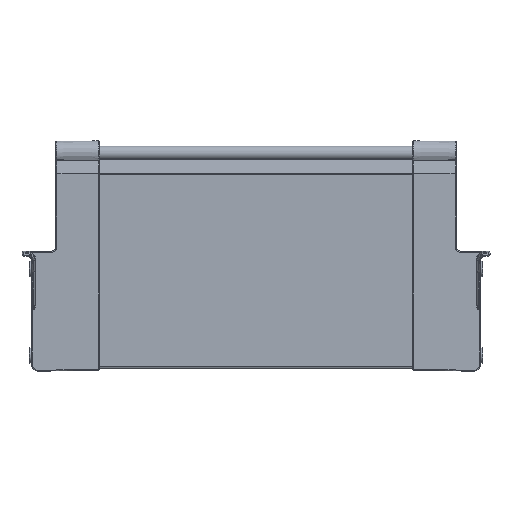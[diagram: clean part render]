
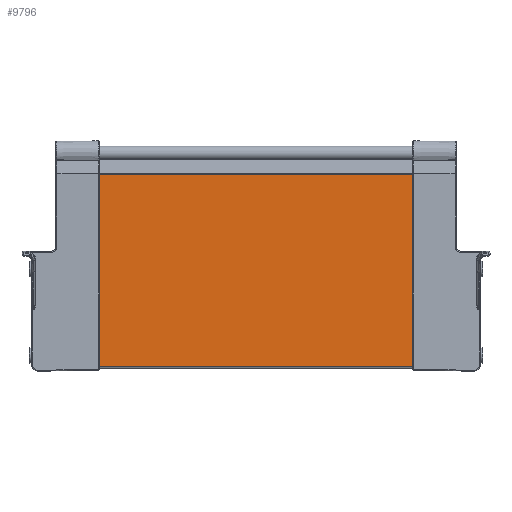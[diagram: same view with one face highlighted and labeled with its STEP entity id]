
A CAD part, top view. The second image highlights one B-rep face of the part: STEP entity #9796.
In plain terms, the highlighted planar face has unit normal (0, 0, 1).
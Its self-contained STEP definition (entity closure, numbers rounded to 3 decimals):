
#2558 = CARTESIAN_POINT ( 'NONE',  ( -38.8, 45.248, 4.05 ) ) ;
#2560 = DIRECTION ( 'NONE',  ( 0., -1., 0. ) ) ;
#2561 = VECTOR ( 'NONE', #2560, 1000. ) ;
#2562 = CARTESIAN_POINT ( 'NONE',  ( -38.8, 45.248, 4.05 ) ) ;
#2563 = LINE ( 'NONE', #2562, #2561 ) ;
#2564 = CARTESIAN_POINT ( 'NONE',  ( -38.8, -64.725, 4.05 ) ) ;
#5880 = DIRECTION ( 'NONE',  ( -1., 0., 0. ) ) ;
#5881 = VECTOR ( 'NONE', #5880, 1000. ) ;
#5882 = CARTESIAN_POINT ( 'NONE',  ( 89.157, -64.725, 4.05 ) ) ;
#5883 = LINE ( 'NONE', #5882, #5881 ) ;
#5884 = CARTESIAN_POINT ( 'NONE',  ( -218.3, -64.725, 4.05 ) ) ;
#5885 = DIRECTION ( 'NONE',  ( 0., -1., 0. ) ) ;
#5886 = VECTOR ( 'NONE', #5885, 1000. ) ;
#5887 = CARTESIAN_POINT ( 'NONE',  ( -218.3, 45.248, 4.05 ) ) ;
#5888 = LINE ( 'NONE', #5887, #5886 ) ;
#5910 = DIRECTION ( 'NONE',  ( 0., 1., 0. ) ) ;
#5911 = DIRECTION ( 'NONE',  ( 0., 0., -1. ) ) ;
#5912 = CARTESIAN_POINT ( 'NONE',  ( 89.157, 45.248, 4.05 ) ) ;
#5913 = AXIS2_PLACEMENT_3D ( 'NONE', #5912, #5911, #5910 ) ;
#5914 = PLANE ( 'NONE',  #5913 ) ;
#5916 = FACE_OUTER_BOUND ( 'NONE', #9646, .T. ) ;
#5917 = DIRECTION ( 'NONE',  ( -1., 0., 0. ) ) ;
#5918 = VECTOR ( 'NONE', #5917, 1000. ) ;
#5919 = CARTESIAN_POINT ( 'NONE',  ( 89.157, 45.248, 4.05 ) ) ;
#5920 = LINE ( 'NONE', #5919, #5918 ) ;
#5921 = CARTESIAN_POINT ( 'NONE',  ( -218.3, 45.248, 4.05 ) ) ;
#8213 = VERTEX_POINT ( 'NONE', #2564 ) ;
#8216 = EDGE_CURVE ( 'NONE', #8218, #8213, #2563, .T. ) ;
#8218 = VERTEX_POINT ( 'NONE', #2558 ) ;
#9646 = EDGE_LOOP ( 'NONE', ( #9755, #9757, #9758, #9762 ) ) ;
#9755 = ORIENTED_EDGE ( 'NONE', *, *, #8216, .F. ) ;
#9757 = ORIENTED_EDGE ( 'NONE', *, *, #9794, .T. ) ;
#9758 = ORIENTED_EDGE ( 'NONE', *, *, #9759, .T. ) ;
#9759 = EDGE_CURVE ( 'NONE', #9790, #9760, #5888, .T. ) ;
#9760 = VERTEX_POINT ( 'NONE', #5884 ) ;
#9762 = ORIENTED_EDGE ( 'NONE', *, *, #9764, .F. ) ;
#9764 = EDGE_CURVE ( 'NONE', #8213, #9760, #5883, .T. ) ;
#9790 = VERTEX_POINT ( 'NONE', #5921 ) ;
#9794 = EDGE_CURVE ( 'NONE', #8218, #9790, #5920, .T. ) ;
#9796 = ADVANCED_FACE ( 'NONE', ( #5916 ), #5914, .F. ) ;
